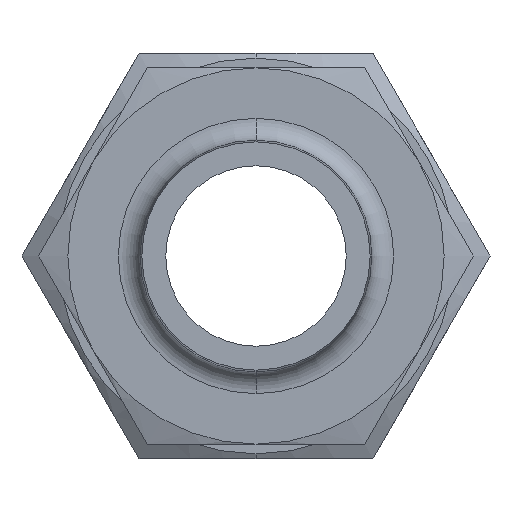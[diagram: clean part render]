
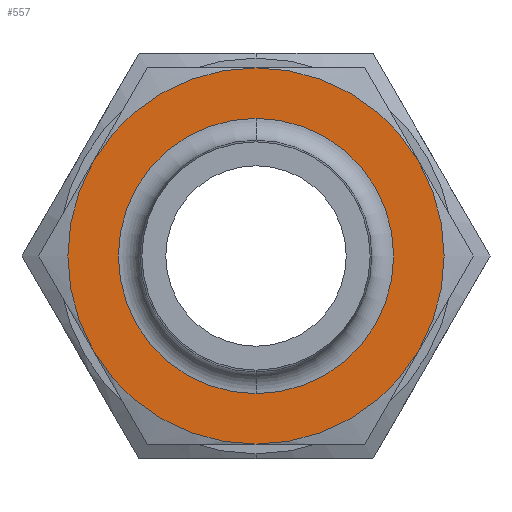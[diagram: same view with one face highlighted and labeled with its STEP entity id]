
A CAD part, left-side view. The second image highlights one B-rep face of the part: STEP entity #557.
In plain terms, the highlighted planar face has unit normal (-1, 0, 0).
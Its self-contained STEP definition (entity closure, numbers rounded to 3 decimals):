
#70 = EDGE_CURVE ( 'NONE', #71, #191, #765, .T. ) ;
#71 = VERTEX_POINT ( 'NONE', #760 ) ;
#191 = VERTEX_POINT ( 'NONE', #1086 ) ;
#352 = VERTEX_POINT ( 'NONE', #1252 ) ;
#513 = VERTEX_POINT ( 'NONE', #1404 ) ;
#533 = VERTEX_POINT ( 'NONE', #1762 ) ;
#557 = ADVANCED_FACE ( 'NONE', ( #1675, #1676 ), #1729, .F. ) ;
#558 = EDGE_LOOP ( 'NONE', ( #559, #561 ) ) ;
#559 = ORIENTED_EDGE ( 'NONE', *, *, #560, .T. ) ;
#560 = EDGE_CURVE ( 'NONE', #191, #71, #1717, .T. ) ;
#561 = ORIENTED_EDGE ( 'NONE', *, *, #70, .T. ) ;
#562 = EDGE_LOOP ( 'NONE', ( #563, #565, #567, #569, #571, #573 ) ) ;
#563 = ORIENTED_EDGE ( 'NONE', *, *, #564, .F. ) ;
#564 = EDGE_CURVE ( 'NONE', #352, #533, #1712, .T. ) ;
#565 = ORIENTED_EDGE ( 'NONE', *, *, #566, .F. ) ;
#566 = EDGE_CURVE ( 'NONE', #657, #352, #1708, .T. ) ;
#567 = ORIENTED_EDGE ( 'NONE', *, *, #568, .F. ) ;
#568 = EDGE_CURVE ( 'NONE', #637, #657, #1703, .T. ) ;
#569 = ORIENTED_EDGE ( 'NONE', *, *, #570, .F. ) ;
#570 = EDGE_CURVE ( 'NONE', #614, #637, #1616, .T. ) ;
#571 = ORIENTED_EDGE ( 'NONE', *, *, #572, .T. ) ;
#572 = EDGE_CURVE ( 'NONE', #614, #513, #1611, .T. ) ;
#573 = ORIENTED_EDGE ( 'NONE', *, *, #574, .F. ) ;
#574 = EDGE_CURVE ( 'NONE', #533, #513, #1606, .T. ) ;
#614 = VERTEX_POINT ( 'NONE', #1742 ) ;
#637 = VERTEX_POINT ( 'NONE', #1938 ) ;
#657 = VERTEX_POINT ( 'NONE', #1869 ) ;
#760 = CARTESIAN_POINT ( 'NONE',  ( 0., 0., 7.55 ) ) ;
#761 = DIRECTION ( 'NONE',  ( 0., 0., -1. ) ) ;
#762 = DIRECTION ( 'NONE',  ( 1., 0., 0. ) ) ;
#763 = CARTESIAN_POINT ( 'NONE',  ( 0., 0., 0. ) ) ;
#764 = AXIS2_PLACEMENT_3D ( 'NONE', #763, #762, #761 ) ;
#765 = CIRCLE ( 'NONE', #764, 7.55 ) ;
#1086 = CARTESIAN_POINT ( 'NONE',  ( 0., 0., -7.55 ) ) ;
#1252 = CARTESIAN_POINT ( 'NONE',  ( 0., 0., -10.32 ) ) ;
#1404 = CARTESIAN_POINT ( 'NONE',  ( 0., 8.937, 5.16 ) ) ;
#1605 = AXIS2_PLACEMENT_3D ( 'NONE', #1668, #1667, #1666 ) ;
#1606 = CIRCLE ( 'NONE', #1605, 10.32 ) ;
#1607 = DIRECTION ( 'NONE',  ( 0., 0., 1. ) ) ;
#1608 = DIRECTION ( 'NONE',  ( -1., 0., 0. ) ) ;
#1609 = CARTESIAN_POINT ( 'NONE',  ( 0., 0., 0. ) ) ;
#1610 = AXIS2_PLACEMENT_3D ( 'NONE', #1609, #1608, #1607 ) ;
#1611 = CIRCLE ( 'NONE', #1610, 10.32 ) ;
#1612 = DIRECTION ( 'NONE',  ( 0., 0., -1. ) ) ;
#1613 = DIRECTION ( 'NONE',  ( 1., 0., 0. ) ) ;
#1614 = CARTESIAN_POINT ( 'NONE',  ( 0., 0., 0. ) ) ;
#1615 = AXIS2_PLACEMENT_3D ( 'NONE', #1614, #1613, #1612 ) ;
#1616 = CIRCLE ( 'NONE', #1615, 10.32 ) ;
#1666 = DIRECTION ( 'NONE',  ( 0., 0., -1. ) ) ;
#1667 = DIRECTION ( 'NONE',  ( 1., 0., 0. ) ) ;
#1668 = CARTESIAN_POINT ( 'NONE',  ( 0., 0., 0. ) ) ;
#1675 = FACE_BOUND ( 'NONE', #558, .T. ) ;
#1676 = FACE_OUTER_BOUND ( 'NONE', #562, .T. ) ;
#1699 = DIRECTION ( 'NONE',  ( 0., 0., -1. ) ) ;
#1700 = DIRECTION ( 'NONE',  ( 1., 0., 0. ) ) ;
#1701 = CARTESIAN_POINT ( 'NONE',  ( 0., 0., 0. ) ) ;
#1702 = AXIS2_PLACEMENT_3D ( 'NONE', #1701, #1700, #1699 ) ;
#1703 = CIRCLE ( 'NONE', #1702, 10.32 ) ;
#1704 = DIRECTION ( 'NONE',  ( 0., 0., -1. ) ) ;
#1705 = DIRECTION ( 'NONE',  ( 1., 0., 0. ) ) ;
#1706 = CARTESIAN_POINT ( 'NONE',  ( 0., 0., 0. ) ) ;
#1707 = AXIS2_PLACEMENT_3D ( 'NONE', #1706, #1705, #1704 ) ;
#1708 = CIRCLE ( 'NONE', #1707, 10.32 ) ;
#1709 = DIRECTION ( 'NONE',  ( 0., 0., -1. ) ) ;
#1710 = DIRECTION ( 'NONE',  ( 1., 0., 0. ) ) ;
#1711 = AXIS2_PLACEMENT_3D ( 'NONE', #1718, #1710, #1709 ) ;
#1712 = CIRCLE ( 'NONE', #1711, 10.32 ) ;
#1713 = DIRECTION ( 'NONE',  ( 0., 0., -1. ) ) ;
#1714 = DIRECTION ( 'NONE',  ( 1., 0., 0. ) ) ;
#1715 = CARTESIAN_POINT ( 'NONE',  ( 0., 0., 0. ) ) ;
#1716 = AXIS2_PLACEMENT_3D ( 'NONE', #1715, #1714, #1713 ) ;
#1717 = CIRCLE ( 'NONE', #1716, 7.55 ) ;
#1718 = CARTESIAN_POINT ( 'NONE',  ( 0., 0., 0. ) ) ;
#1719 = DIRECTION ( 'NONE',  ( 0., 0., -1. ) ) ;
#1720 = DIRECTION ( 'NONE',  ( 1., 0., 0. ) ) ;
#1721 = AXIS2_PLACEMENT_3D ( 'NONE', #1728, #1720, #1719 ) ;
#1728 = CARTESIAN_POINT ( 'NONE',  ( 0., 11.917, 0. ) ) ;
#1729 = PLANE ( 'NONE',  #1721 ) ;
#1742 = CARTESIAN_POINT ( 'NONE',  ( 0., 0., 10.32 ) ) ;
#1762 = CARTESIAN_POINT ( 'NONE',  ( 0., 8.937, -5.16 ) ) ;
#1869 = CARTESIAN_POINT ( 'NONE',  ( 0., -8.937, -5.16 ) ) ;
#1938 = CARTESIAN_POINT ( 'NONE',  ( 0., -8.937, 5.16 ) ) ;
